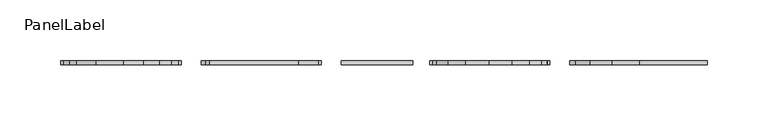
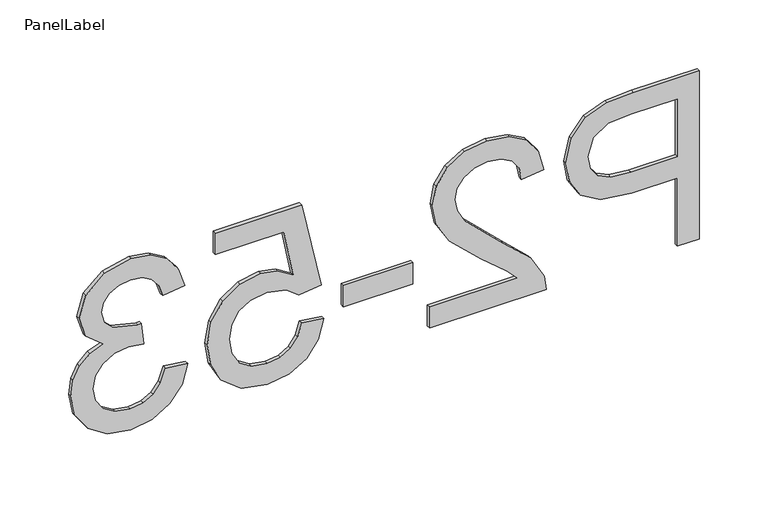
"""IFC4 building model written with IfcOpenShell, lengths in millimetres: fastener geometry, PanelLabel : Miranda."""

from ifc_helpers import new_model, si_unit, frame, origin, place, context, project, spatial, polyline, outline, extrude, source, transform, mapped, element, save


def panellabel_3d57aa23(model_context):
    return source(origin(), model_context, "Body", "SweptSolid", [
        extrude(outline(polyline([(1310.9113766, 260.2523077), (1460.9667612, 260.2523077), (1460.9667612, 204.6409615), (1459.5380112, 182.2205769), (1452.5224823, 163.9948558), (1438.0151747, 152.1801923), (1417.554742, 147.7107692), (1399.8693814, 150.7285457), (1385.1331073, 159.781875), (1375.1868093, 176.7116466), (1371.8713766, 203.35875), (1371.8713766, 241.4953846), (1310.9113766, 241.4953846), (1310.9113766, 260.2523077)]), holes=[polyline([(1390.6282997, 241.4953846), (1390.6282997, 202.2597115), (1392.3501266, 185.6275962), (1397.5156073, 174.6372115), (1405.8041891, 168.5100721), (1416.8953189, 166.4676923), (1432.4283958, 171.2851442), (1440.9276266, 183.9424038), (1442.2098381, 202.6993269), (1442.2098381, 241.4953846), (1390.6282997, 241.4953846)])]), frame((0.0, 60.325, 0.0), z_axis=(0.0, 1.0, 0.0), x_axis=(0.0, 0.0, 1.0)), (0.0, 0.0, 1.0), 3.175),
        extrude(outline(polyline([(1329.6682997, 32.8246154), (1310.9113766, 32.8246154), (1310.9113766, 131.2984615), (1323.8433958, 129.2835577), (1343.7543093, 117.8901923), (1365.4969535, 94.4074038), (1396.7462804, 62.0224038), (1407.5168573, 55.9502163), (1417.9943573, 53.9261538), (1427.3865569, 55.8357332), (1435.1943093, 61.5644712), (1440.4559559, 70.3705168), (1442.2098381, 81.5120192), (1440.4971698, 93.2121995), (1435.359165, 102.3021635), (1427.1988045, 108.1682813), (1416.4190689, 110.1969231), (1418.7636843, 128.9538462), (1436.9069775, 124.4065745), (1450.1595497, 114.5747596), (1458.2649583, 99.9712861), (1460.9667612, 81.1090385), (1457.9627227, 62.1094111), (1448.9506073, 47.5334135), (1435.4873862, 38.2602764), (1419.1300304, 35.1692308), (1401.3439247, 38.5029808), (1382.9533477, 49.5849519), (1357.254165, 76.4564423), (1339.211617, 98.0342308), (1329.6682997, 106.4968269), (1329.6682997, 32.8246154)])), frame((0.0, 60.325, 0.0), z_axis=(0.0, 1.0, 0.0), x_axis=(0.0, 0.0, 1.0)), (0.0, 0.0, 1.0), 3.175),
        extrude(outline(polyline([(-39.8584615, 63.5), (18.7569231, 63.5), (18.7569231, 60.325), (-39.8584615, 60.325), (-39.8584615, 63.5)])), frame((0.0, 0.0, 1355.4590689), z_axis=(0.0, 0.0, 1.0), x_axis=(1.0, 0.0, 0.0)), (0.0, 0.0, 1.0), 18.7569231),
        extrude(outline(polyline([(1350.7698381, -56.2707692), (1353.1144535, -75.0276923), (1341.8538886, -78.4713462), (1333.7896939, -84.4794231), (1328.9401867, -93.0244471), (1327.3236843, -104.0789423), (1329.5721338, -117.5238462), (1336.3174823, -127.5983654), (1346.7812444, -133.8903606), (1360.1849343, -135.9876923), (1372.8055593, -134.0231611), (1382.4587804, -128.1295673), (1388.5859198, -118.2611178), (1390.6282997, -104.3720192), (1387.3678189, -87.9047596), (1378.9052227, -77.3723077), (1381.2498381, -58.6153846), (1458.6221458, -75.0276923), (1458.6221458, -147.7107692), (1439.8652227, -147.7107692), (1439.8652227, -90.1944231), (1398.5413766, -82.1714423), (1406.6742612, -95.5705529), (1409.3852227, -109.6107692), (1406.0239968, -127.1358534), (1395.9403189, -141.684375), (1380.5720977, -151.4795553), (1361.357242, -154.7446154), (1342.6003189, -151.8046875), (1326.5543573, -142.9849038), (1313.0636602, -126.0963462), (1308.5667612, -104.0056731), (1311.4563165, -85.5830409), (1320.1249823, -70.9062981), (1333.5653069, -60.8455168), (1350.7698381, -56.2707692)])), frame((0.0, 60.325, 0.0), z_axis=(0.0, 1.0, 0.0), x_axis=(0.0, 0.0, 1.0)), (0.0, 0.0, 1.0), 3.175),
        extrude(outline(polyline([(1350.7698381, -171.1569231), (1353.1144535, -189.9138462), (1341.327266, -194.1130889), (1333.3683958, -200.263125), (1328.8348622, -208.6661899), (1327.3236843, -219.6245192), (1329.4026987, -232.4832692), (1335.639742, -242.41125), (1344.9449343, -248.7581971), (1356.2283958, -250.8738462), (1366.9394415, -248.7765144), (1375.6264247, -242.4845192), (1381.3826386, -232.9595192), (1383.3013766, -221.1631731), (1381.2498381, -208.0113462), (1400.0067612, -210.0995192), (1399.7869535, -213.1035577), (1405.172242, -234.3882692), (1412.0045977, -241.4770673), (1421.7310881, -243.84), (1429.8319174, -242.1273317), (1436.4032516, -236.9893269), (1440.7581915, -229.1495192), (1442.2098381, -219.3314423), (1440.7444535, -209.4950481), (1436.3482997, -201.45375), (1429.0213766, -195.5830529), (1418.7636843, -192.2584615), (1421.1082997, -173.5015385), (1437.9510641, -179.0242067), (1450.5258958, -188.8514423), (1458.3565448, -202.2963462), (1460.9667612, -218.6720192), (1455.8195977, -241.2938942), (1441.7519054, -257.1200481), (1422.8301266, -262.5969231), (1405.5385881, -257.3948077), (1393.1194535, -242.0082692), (1388.3752708, -253.7496635), (1380.2973381, -262.4503846), (1369.3252708, -267.8356731), (1355.8986843, -269.6307692), (1337.6180112, -266.0405769), (1322.3413766, -255.27), (1312.010415, -239.0133894), (1308.5667612, -218.9650962), (1311.5066891, -200.8309615), (1320.3264727, -186.0672115), (1333.8171698, -175.8003606), (1350.7698381, -171.1569231)])), frame((0.0, 60.325, 0.0), z_axis=(0.0, 1.0, 0.0), x_axis=(0.0, 0.0, 1.0)), (0.0, 0.0, 1.0), 3.175),
    ])


if __name__ == "__main__":
    model = new_model("IFC4")
    model_context = context("Model", 3, world=origin())
    ifc_project = project(units=[si_unit("LENGTHUNIT", "METRE", prefix="MILLI")], contexts=[model_context])
    site = spatial("IfcSite", under=ifc_project)
    building = spatial("IfcBuilding", under=site)
    placement = place(None, origin())
    panellabel_shape = panellabel_3d57aa23(model_context)
    element("IfcFastener", 1, ObjectType="PanelLabel : Miranda", at=placement, inside=building, context=model_context, shape_type="MappedRepresentation", body=[
        mapped(panellabel_shape, transform((0.0, 0.0, 0.0), x_axis=(1.0, 0.0, 0.0), y_axis=(0.0, 1.0, 0.0), z_axis=(0.0, 0.0, 1.0))),
    ])
    save(model, "model.ifc")
